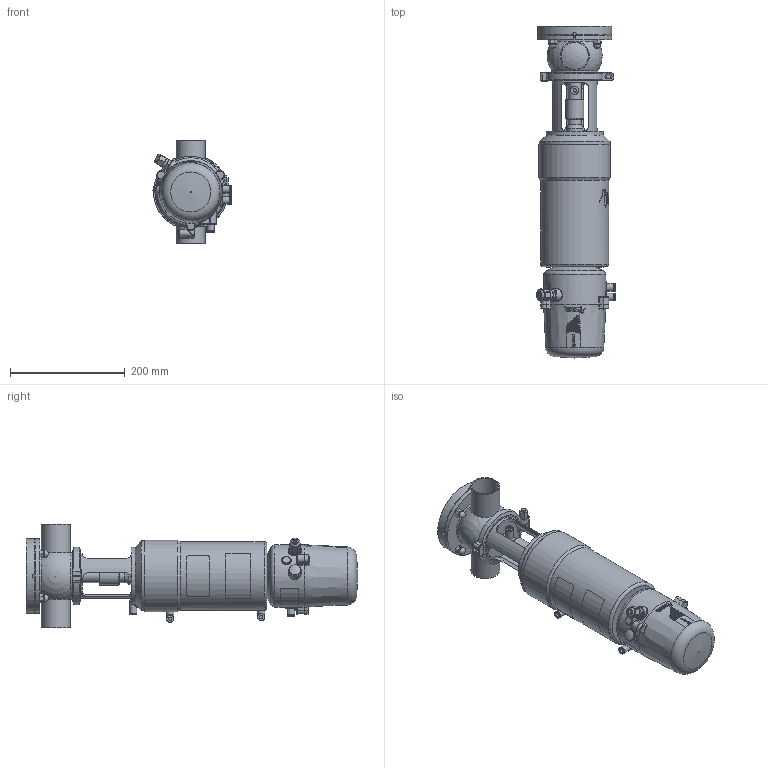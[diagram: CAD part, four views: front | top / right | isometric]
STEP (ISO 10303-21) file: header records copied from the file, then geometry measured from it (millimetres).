
FILE_DESCRIPTION (( 'STEP AP214' ), '1' );
FILE_NAME ('INNOVA T T W OD 2 & C-TOP S_10.252.16.0008.STEP', '2024-08-20T12:22:38', ( '' ), ( '' ), 'SwSTEP 2.0', 'SolidWorks 2023', '' );
FILE_SCHEMA (( 'AUTOMOTIVE_DESIGN' ));
Length unit declared in the file: millimetre
Products named in the file (7): 10.252.15.0001_OD 2"; 10.250.15.0002_Type T T1; 10.240.15.0001_DN 050; 10.248.15.0003_DIN 050 _ OD 2"; 10.240.15.0007_OD 2"; INNOVA T T W OD 2 & C-TOP S_10.252.16.0008; 10.426.15.0001_C-TOP S - 3 EV
Assembly tree (6 placements, depth 2):
  INNOVA T T W OD 2 & C-TOP S_10.252.16.0008
    10.240.15.0007_OD 2"
    10.248.15.0003_DIN 050 _ OD 2"
    10.252.15.0001_OD 2"
    10.250.15.0002_Type T T1
    10.240.15.0001_DN 050
    10.426.15.0001_C-TOP S - 3 EV
Bounding box: 137.63 x 579.83 x 180 mm (x, y, z)
Volume: 4983101.7 mm3; surface area: 394039.4 mm2
Topology: 6 solids, 6 shells, 1203 faces, 2902 edges, 1930 vertices
Faces by surface type: plane 418, cylinder 382, cone 196, bspline 163, torus 33, sphere 11
Full cylindrical faces by diameter (mm): 0.371 x17, 0.512 x16, 0.658 x16, 0.795 x16, 0.94 x15, 1.098 x15, 1.241 x13, 1.382 x13, 1.523 x11, 1.669 x10, 2.201 x1, 4.2 x2, 5 x1, 5.5 x2, 6 x5, 6.15 x3, 8 x3, 10 x1, 10.5 x3, 11 x4, 12 x1, 12.5 x13, 13 x6, 13.5 x2, 14 x2, 17 x3, 20 x2, 22 x2, 23 x2, 28 x1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
Entity records: 60697 total; most frequent: CARTESIAN_POINT 28339, ORIENTED_EDGE 4902, DIRECTION 4035, EDGE_CURVE 2451, VERTEX_POINT 1743, EDGE_LOOP 1696, AXIS2_PLACEMENT_3D 1632, FACE_OUTER_BOUND 1435
